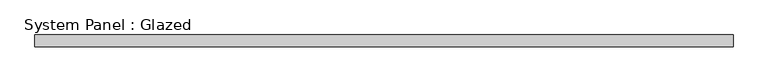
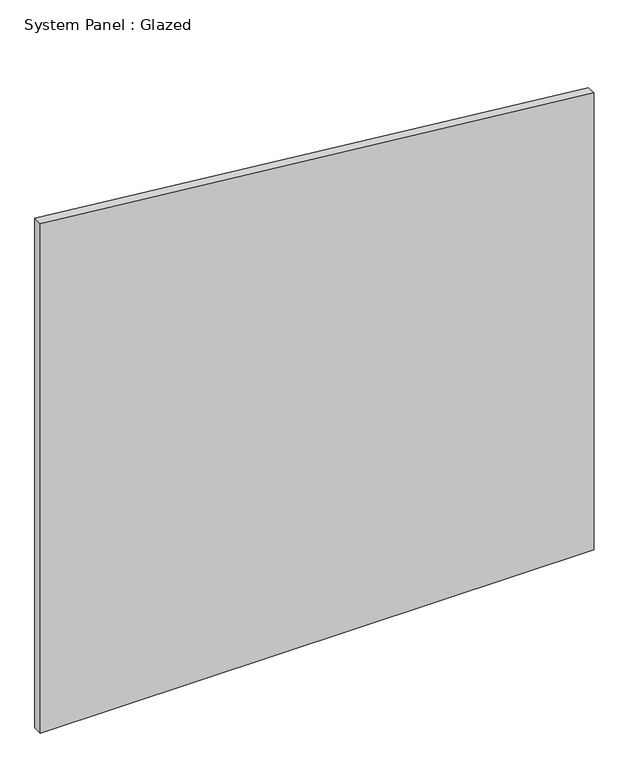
"""IFC4 building model written with IfcOpenShell, lengths in millimetres: plate geometry, System Panel : Glazed."""

import ifcopenshell
import ifcopenshell.guid

model = None  # the IFC model being written
_history = None  # IfcOwnerHistory: only IFC2X3 demands one
_inside = {}  # id of a spatial element -> (the spatial element, [elements in it])
_under = {}  # id of a project, library or spatial element -> (it, [spatial elements below it])
_declared = {}  # id of a project -> (the project, [libraries it declares])
_typed = {}  # id of a type object -> (the type object, [elements of that type])
_made_of = {}  # id of a material, layer set ... -> (it, [elements and type objects made of it])


def new_model(schema):
    """Start an empty IFC model of exactly this schema.

    Asked for "IFC4X3", IfcOpenShell would pick the latest addendum, in which some entities
    have other attributes; the version numbers below select the first issue.
    IFC2X3 requires an IfcOwnerHistory on every rooted entity: one is made here for all.
    """
    global model, _history
    if schema == "IFC4X3":
        model = ifcopenshell.file(schema_version=(4, 3, 0, 0))
    else:
        model = ifcopenshell.file(schema=schema)
    _inside.clear()
    _under.clear()
    _declared.clear()
    _typed.clear()
    _made_of.clear()
    _history = None
    if model.schema == "IFC2X3":
        org = make("IfcOrganization", Name="unknown")
        user = make(
            "IfcPersonAndOrganization",
            ThePerson=make("IfcPerson", FamilyName="unknown"),
            TheOrganization=org,
        )
        app = make(
            "IfcApplication",
            ApplicationDeveloper=org,
            Version="unknown",
            ApplicationFullName="unknown",
            ApplicationIdentifier="unknown",
        )
        _history = make(
            "IfcOwnerHistory",
            OwningUser=user,
            OwningApplication=app,
            ChangeAction="ADDED",
            CreationDate=0,
        )
    return model


def make(cls, **values):
    """One entity of the class cls with the attributes given. An attribute that is None is left unset."""
    return model.create_entity(
        cls, **{name: value for name, value in values.items() if value is not None}
    )


def rooted(cls, **values):
    """An entity with a GlobalId (a new one), such as an element, a storey or a relation."""
    return make(cls, GlobalId=ifcopenshell.guid.new(), OwnerHistory=_history, **values)


def si_unit(unit_type, name, prefix=None):
    """IfcSIUnit, for example si_unit("LENGTHUNIT", "METRE", prefix="MILLI")."""
    return make("IfcSIUnit", UnitType=unit_type, Prefix=prefix, Name=name)


def assignment(units):
    """IfcUnitAssignment: the units of a project."""
    return None if units is None else make("IfcUnitAssignment", Units=units)


def point(xyz):
    """IfcCartesianPoint."""
    return None if xyz is None else make("IfcCartesianPoint", Coordinates=xyz)


def direction(xyz):
    """IfcDirection."""
    return None if xyz is None else make("IfcDirection", DirectionRatios=xyz)


def frame(location, z_axis=None, x_axis=None):
    """IfcAxis2Placement3D, a coordinate frame: its origin and axes. An axis left out is left unset."""
    return make(
        "IfcAxis2Placement3D",
        Location=point(location),
        Axis=direction(z_axis),
        RefDirection=direction(x_axis),
    )


def origin():
    """The frame at (0, 0, 0) with its axes left unset."""
    return frame((0.0, 0.0, 0.0))


def place(relative_to, where):
    """IfcLocalPlacement: puts the frame where relative to a parent placement (None: the world)."""
    return make(
        "IfcLocalPlacement", PlacementRelTo=relative_to, RelativePlacement=where
    )


def context(
    kind, dimensions, precision=None, world=None, true_north=None, identifier=None
):
    """IfcGeometricRepresentationContext, for example the 3D "Model" context."""
    return make(
        "IfcGeometricRepresentationContext",
        ContextIdentifier=identifier,
        ContextType=kind,
        CoordinateSpaceDimension=dimensions,
        Precision=precision,
        WorldCoordinateSystem=world,
        TrueNorth=true_north,
    )


def project(units=None, contexts=None):
    """IfcProject with its units and contexts."""
    return rooted(
        "IfcProject",
        Name="project",
        RepresentationContexts=contexts,
        UnitsInContext=assignment(units),
    )


def spatial(cls, under=None, at=None, **own):
    """A site, building, storey or space (cls), placed at a placement, below another one or the project."""
    s = rooted(cls, ObjectPlacement=at, **own)
    if under is not None:
        _under.setdefault(under.id(), (under, []))[1].append(s)
    return s


def polyline(points):
    """IfcPolyline through the points."""
    return make("IfcPolyline", Points=[point(p) for p in points])


def outline(outer, holes=None, kind="AREA"):
    """IfcArbitraryClosedProfileDef: a profile drawn as a closed curve; with holes, ...WithVoids."""
    if holes is None:
        return make("IfcArbitraryClosedProfileDef", ProfileType=kind, OuterCurve=outer)
    return make(
        "IfcArbitraryProfileDefWithVoids",
        ProfileType=kind,
        OuterCurve=outer,
        InnerCurves=holes,
    )


def extrude(swept, where, along, depth):
    """IfcExtrudedAreaSolid: the profile swept, set in the frame where, extruded along a direction by depth."""
    return make(
        "IfcExtrudedAreaSolid",
        SweptArea=swept,
        Position=where,
        ExtrudedDirection=direction(along),
        Depth=depth,
    )


def shape(context_of_items, identifier, shape_type, items):
    """IfcShapeRepresentation: the items that make up one representation, for example the "Body"."""
    return make(
        "IfcShapeRepresentation",
        ContextOfItems=context_of_items,
        RepresentationIdentifier=identifier,
        RepresentationType=shape_type,
        Items=items,
    )


def source(mapping_origin, context_of_items, identifier, shape_type, items):
    """IfcRepresentationMap: a shape defined once, which mapped items show again and again."""
    return make(
        "IfcRepresentationMap",
        MappingOrigin=mapping_origin,
        MappedRepresentation=shape(context_of_items, identifier, shape_type, items),
    )


def transform(
    local_origin,
    x_axis=None,
    y_axis=None,
    z_axis=None,
    scale=None,
    scale2=None,
    scale3=None,
    uniform=True,
):
    """IfcCartesianTransformationOperator3D, or its non-uniform kind. x_axis, y_axis, z_axis: its Axis1, 2, 3."""
    if uniform:
        return make(
            "IfcCartesianTransformationOperator3D",
            Axis1=direction(x_axis),
            Axis2=direction(y_axis),
            LocalOrigin=point(local_origin),
            Scale=scale,
            Axis3=direction(z_axis),
        )
    return make(
        "IfcCartesianTransformationOperator3DnonUniform",
        Axis1=direction(x_axis),
        Axis2=direction(y_axis),
        LocalOrigin=point(local_origin),
        Scale=scale,
        Axis3=direction(z_axis),
        Scale2=scale2,
        Scale3=scale3,
    )


def mapped(mapping_source, mapping_target):
    """IfcMappedItem: shows the shape of a source again, moved by a transform."""
    return make(
        "IfcMappedItem", MappingSource=mapping_source, MappingTarget=mapping_target
    )


def made_of(thing, what):
    """Note that an element or type object is made of a material, layer set ...; save() writes the relation."""
    if what is not None:
        _made_of.setdefault(what.id(), (what, []))[1].append(thing)
    return thing


def element(
    cls,
    number,
    at=None,
    inside=None,
    cuts=None,
    type_object=None,
    material=None,
    context=None,
    identifier="Body",
    shape_type=None,
    held_by="IfcProductDefinitionShape",
    body=None,
    shapes=None,
    **own,
):
    """One element of the class cls, such as IfcWall. Its Tag is "e" and its number.

    at: its placement. inside: the storey or other place that contains it. cuts: it is an
    opening in that element (IfcRelVoidsElement). A single representation is given by context,
    identifier, shape_type and body (its items); several are given by shapes. held_by: the class
    of the entity that holds the representations. save() writes the other relations.
    """
    e = rooted(cls, Tag="e%d" % number, ObjectPlacement=at, **own)
    if body is not None:
        shapes = [shape(context, identifier, shape_type, body)]
    if shapes is not None:
        e.Representation = make(held_by, Representations=shapes)
    if inside is not None:
        _inside.setdefault(inside.id(), (inside, []))[1].append(e)
    if cuts is not None:
        rooted(
            "IfcRelVoidsElement", RelatingBuildingElement=cuts, RelatedOpeningElement=e
        )
    if type_object is not None:
        _typed.setdefault(type_object.id(), (type_object, []))[1].append(e)
    return made_of(e, material)


def aggregate(whole, parts):
    """IfcRelAggregates: a whole, such as a stair, and the parts it consists of."""
    return rooted("IfcRelAggregates", RelatingObject=whole, RelatedObjects=parts)


def save(model, path):
    """Write the relations noted so far, then the file.

    IfcRelAggregates (storeys below a building ...), IfcRelContainedInSpatialStructure (elements
    in a storey), IfcRelDefinesByType, IfcRelAssociatesMaterial and IfcRelDeclares: one each for
    every whole, place, type object, material and project.
    """
    for whole, parts in _under.values():
        aggregate(whole, parts)
    for where, things in _inside.values():
        rooted(
            "IfcRelContainedInSpatialStructure",
            RelatedElements=things,
            RelatingStructure=where,
        )
    for kind, things in _typed.values():
        rooted("IfcRelDefinesByType", RelatedObjects=things, RelatingType=kind)
    for what, things in _made_of.values():
        rooted("IfcRelAssociatesMaterial", RelatedObjects=things, RelatingMaterial=what)
    for by, libraries in _declared.values():
        rooted("IfcRelDeclares", RelatingContext=by, RelatedDefinitions=libraries)
    model.write(path)


def system_panel_glazed_ba2f9ca4(model_context):
    return source(origin(), model_context, "Body", "SweptSolid", [
        extrude(outline(polyline([(0.0, -735.8695652), (0.0, 735.8695652), (1282.6279135, 735.8695652), (1430.6108922, -735.8695652), (0.0, -735.8695652)])), frame((0.0, 24.5, 0.0), z_axis=(0.0, 1.0, 0.0), x_axis=(0.0, 0.0, 1.0)), (0.0, 0.0, 1.0), 25.0),
    ])


if __name__ == "__main__":
    model = new_model("IFC4")
    model_context = context("Model", 3, world=origin())
    ifc_project = project(units=[si_unit("LENGTHUNIT", "METRE", prefix="MILLI")], contexts=[model_context])
    site = spatial("IfcSite", under=ifc_project)
    building = spatial("IfcBuilding", under=site)
    placement = place(None, origin())
    system_panel_glazed_shape = system_panel_glazed_ba2f9ca4(model_context)
    element("IfcPlate", 1, ObjectType="System Panel : Glazed", at=placement, inside=building, context=model_context, shape_type="MappedRepresentation", body=[
        mapped(system_panel_glazed_shape, transform((0.0, 0.0, 0.0), x_axis=(1.0, 0.0, 0.0), y_axis=(0.0, 1.0, 0.0), z_axis=(0.0, 0.0, 1.0))),
    ])
    save(model, "model.ifc")
